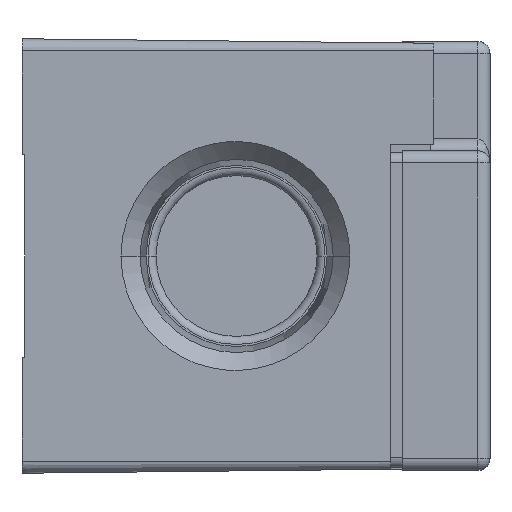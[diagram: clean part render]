
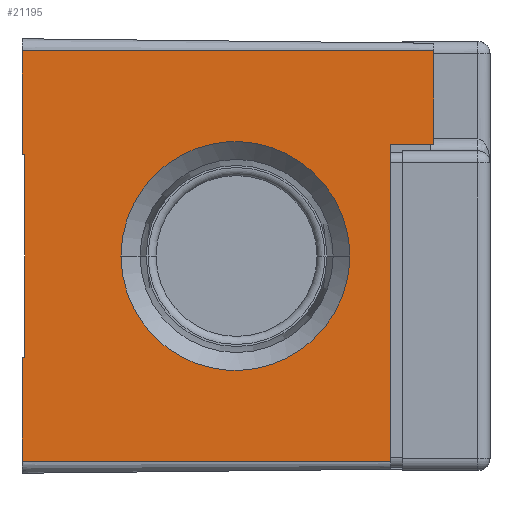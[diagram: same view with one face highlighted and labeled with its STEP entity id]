
A CAD part, front view. The second image highlights one B-rep face of the part: STEP entity #21195.
In plain terms, the highlighted planar face has unit normal (0.011, -1, 0).
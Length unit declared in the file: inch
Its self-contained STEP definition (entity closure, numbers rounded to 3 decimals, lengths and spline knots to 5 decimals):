
#16778=DIRECTION('',(0.,0.,1.));
#16779=VECTOR('',#16778,0.756);
#16780=CARTESIAN_POINT('',(-0.835,-3.20389,-0.378));
#16781=LINE('',#16780,#16779);
#16804=DIRECTION('',(0.,0.,1.));
#16805=VECTOR('',#16804,0.387);
#16806=CARTESIAN_POINT('',(-0.845,-3.204,-0.765));
#16807=LINE('',#16806,#16805);
#17206=DIRECTION('',(0.,0.,-1.));
#17207=VECTOR('',#17206,1.182);
#17208=CARTESIAN_POINT('',(0.53,-3.18912,0.417));
#17209=LINE('',#17208,#17207);
#17234=DIRECTION('',(-1.,-0.011,0.));
#17235=VECTOR('',#17234,0.16001);
#17236=CARTESIAN_POINT('',(0.69,-3.18739,0.417));
#17237=LINE('',#17236,#17235);
#17242=DIRECTION('',(-1.,-0.011,0.));
#17243=VECTOR('',#17242,0.01);
#17244=CARTESIAN_POINT('',(-0.835,-3.20389,-0.378));
#17245=LINE('',#17244,#17243);
#17246=DIRECTION('',(1.,0.011,0.));
#17247=VECTOR('',#17246,0.01);
#17248=CARTESIAN_POINT('',(-0.845,-3.204,0.378));
#17249=LINE('',#17248,#17247);
#17250=DIRECTION('',(0.,0.,1.));
#17251=VECTOR('',#17250,0.348);
#17252=CARTESIAN_POINT('',(0.69,-3.18739,0.417));
#17253=LINE('',#17252,#17251);
#17254=CARTESIAN_POINT('',(-0.47601,-3.20001,0.));
#17255=CARTESIAN_POINT('',(-0.47601,-3.20001,
0.02512));
#17256=CARTESIAN_POINT('',(-0.47154,-3.19996,
0.07725));
#17257=CARTESIAN_POINT('',(-0.44892,-3.19971,
0.15743));
#17258=CARTESIAN_POINT('',(-0.4092,-3.19928,
0.2347));
#17259=CARTESIAN_POINT('',(-0.3533,-3.19868,
0.30367));
#17260=CARTESIAN_POINT('',(-0.28432,-3.19793,
0.35957));
#17261=CARTESIAN_POINT('',(-0.21993,-3.19724,
0.39266));
#17262=CARTESIAN_POINT('',(-0.16696,-3.19666,
0.4106));
#17263=CARTESIAN_POINT('',(-0.12712,-3.19623,
0.41991));
#17264=CARTESIAN_POINT('',(-0.09433,-3.19588,
0.42437));
#17265=CARTESIAN_POINT('',(-0.06856,-3.1956,
0.42609));
#17266=CARTESIAN_POINT('',(-0.04961,-3.19539,
0.42651));
#17267=CARTESIAN_POINT('',(-0.03067,-3.19519,
0.42609));
#17268=CARTESIAN_POINT('',(-0.00489,-3.19491,
0.42437));
#17269=CARTESIAN_POINT('',(0.02789,-3.19455,
0.41991));
#17270=CARTESIAN_POINT('',(0.06773,-3.19412,
0.4106));
#17271=CARTESIAN_POINT('',(0.1207,-3.19355,
0.39266));
#17272=CARTESIAN_POINT('',(0.18509,-3.19285,
0.35957));
#17273=CARTESIAN_POINT('',(0.25407,-3.19211,
0.30367));
#17274=CARTESIAN_POINT('',(0.30997,-3.1915,
0.2347));
#17275=CARTESIAN_POINT('',(0.34969,-3.19107,
0.15743));
#17276=CARTESIAN_POINT('',(0.37232,-3.19083,
0.07725));
#17277=CARTESIAN_POINT('',(0.37678,-3.19078,
0.02512));
#17278=CARTESIAN_POINT('',(0.37678,-3.19078,0.));
#18921=DIRECTION('',(1.,0.011,0.));
#18922=VECTOR('',#18921,1.53509);
#18923=CARTESIAN_POINT('',(-0.845,-3.204,0.765));
#18924=LINE('',#18923,#18922);
#18925=DIRECTION('',(0.,0.,1.));
#18926=VECTOR('',#18925,0.387);
#18927=CARTESIAN_POINT('',(-0.845,-3.204,0.378));
#18928=LINE('',#18927,#18926);
#19285=DIRECTION('',(-1.,-0.011,0.));
#19286=VECTOR('',#19285,1.37508);
#19287=CARTESIAN_POINT('',(0.53,-3.18912,-0.765));
#19288=LINE('',#19287,#19286);
#19293=CARTESIAN_POINT('',(-0.47601,-3.20001,0.));
#19294=CARTESIAN_POINT('',(-0.47601,-3.20001,
-0.02512));
#19295=CARTESIAN_POINT('',(-0.47154,-3.19996,
-0.07725));
#19296=CARTESIAN_POINT('',(-0.44892,-3.19971,
-0.15743));
#19297=CARTESIAN_POINT('',(-0.4092,-3.19928,
-0.2347));
#19298=CARTESIAN_POINT('',(-0.3533,-3.19868,
-0.30367));
#19299=CARTESIAN_POINT('',(-0.28432,-3.19793,
-0.35957));
#19300=CARTESIAN_POINT('',(-0.21993,-3.19724,
-0.39266));
#19301=CARTESIAN_POINT('',(-0.16696,-3.19666,
-0.4106));
#19302=CARTESIAN_POINT('',(-0.12712,-3.19623,
-0.41991));
#19303=CARTESIAN_POINT('',(-0.09433,-3.19588,
-0.42437));
#19304=CARTESIAN_POINT('',(-0.06856,-3.1956,
-0.42609));
#19305=CARTESIAN_POINT('',(-0.04961,-3.19539,
-0.42651));
#19306=CARTESIAN_POINT('',(-0.03067,-3.19519,
-0.42609));
#19307=CARTESIAN_POINT('',(-0.00489,-3.19491,
-0.42437));
#19308=CARTESIAN_POINT('',(0.02789,-3.19455,
-0.41991));
#19309=CARTESIAN_POINT('',(0.06773,-3.19412,
-0.4106));
#19310=CARTESIAN_POINT('',(0.1207,-3.19355,
-0.39266));
#19311=CARTESIAN_POINT('',(0.18509,-3.19285,
-0.35957));
#19312=CARTESIAN_POINT('',(0.25407,-3.19211,
-0.30367));
#19313=CARTESIAN_POINT('',(0.30997,-3.1915,
-0.2347));
#19314=CARTESIAN_POINT('',(0.34969,-3.19107,
-0.15743));
#19315=CARTESIAN_POINT('',(0.37232,-3.19083,
-0.07725));
#19316=CARTESIAN_POINT('',(0.37678,-3.19078,
-0.02512));
#19317=CARTESIAN_POINT('',(0.37678,-3.19078,0.));
#20309=CARTESIAN_POINT('',(-0.835,-3.20389,-0.378));
#20310=VERTEX_POINT('',#20309);
#20329=CARTESIAN_POINT('',(-0.835,-3.20389,0.378));
#20330=VERTEX_POINT('',#20329);
#20355=CARTESIAN_POINT('',(-0.845,-3.204,-0.378));
#20356=VERTEX_POINT('',#20355);
#20363=CARTESIAN_POINT('',(-0.845,-3.204,-0.765));
#20364=VERTEX_POINT('',#20363);
#20365=CARTESIAN_POINT('',(-0.845,-3.204,0.378));
#20366=CARTESIAN_POINT('',(-0.845,-3.204,0.765));
#20367=VERTEX_POINT('',#20365);
#20368=VERTEX_POINT('',#20366);
#20395=CARTESIAN_POINT('',(0.53,-3.18912,-0.765));
#20396=VERTEX_POINT('',#20395);
#20407=CARTESIAN_POINT('',(-0.47601,-3.20001,0.));
#20409=VERTEX_POINT('',#20407);
#20428=CARTESIAN_POINT('',(0.69,-3.18739,0.765));
#20429=VERTEX_POINT('',#20428);
#20435=VERTEX_POINT('',#17278);
#20442=CARTESIAN_POINT('',(0.53,-3.18912,0.417));
#20443=VERTEX_POINT('',#20442);
#20451=CARTESIAN_POINT('',(0.69,-3.18739,0.417));
#20452=VERTEX_POINT('',#20451);
#21166=CARTESIAN_POINT('',(-0.845,-3.204,-1.81479));
#21167=DIRECTION('',(0.011,-1.,0.));
#21168=DIRECTION('',(0.,0.,1.));
#21169=AXIS2_PLACEMENT_3D('',#21166,#21167,#21168);
#21170=PLANE('',#21169);
#21172=ORIENTED_EDGE('',*,*,#21171,.F.);
#21173=ORIENTED_EDGE('',*,*,#20662,.T.);
#21175=ORIENTED_EDGE('',*,*,#21174,.F.);
#21177=ORIENTED_EDGE('',*,*,#21176,.T.);
#21179=ORIENTED_EDGE('',*,*,#21178,.T.);
#21181=ORIENTED_EDGE('',*,*,#21180,.F.);
#21182=ORIENTED_EDGE('',*,*,#21155,.T.);
#21183=ORIENTED_EDGE('',*,*,#21122,.T.);
#21185=ORIENTED_EDGE('',*,*,#21184,.T.);
#21186=ORIENTED_EDGE('',*,*,#20698,.T.);
#21187=EDGE_LOOP('',(#21172,#21173,#21175,#21177,#21179,#21181,#21182,#21183,
#21185,#21186));
#21188=FACE_OUTER_BOUND('',#21187,.F.);
#21190=ORIENTED_EDGE('',*,*,#21189,.F.);
#21192=ORIENTED_EDGE('',*,*,#21191,.T.);
#21193=EDGE_LOOP('',(#21190,#21192));
#21194=FACE_BOUND('',#21193,.F.);
#21195=ADVANCED_FACE('',(#21188,#21194),#21170,.T.);
#17279=B_SPLINE_CURVE_WITH_KNOTS('',3,(#17254,#17255,#17256,#17257,#17258,
#17259,#17260,#17261,#17262,#17263,#17264,#17265,#17266,#17267,#17268,#17269,
#17270,#17271,#17272,#17273,#17274,#17275,#17276,#17277,#17278),.UNSPECIFIED.,
.F.,.F.,(4,1,1,1,1,1,1,1,1,1,1,1,1,1,1,1,1,1,1,1,1,1,4),(0.,0.0625,0.125,
0.1875,0.25,0.3125,0.375,0.40625,0.4375,0.46875,0.48438,0.5,
0.51563,0.53125,0.5625,0.59375,0.625,0.6875,0.75,0.8125,
0.875,0.9375,1.),.UNSPECIFIED.);
#19318=B_SPLINE_CURVE_WITH_KNOTS('',3,(#19293,#19294,#19295,#19296,#19297,
#19298,#19299,#19300,#19301,#19302,#19303,#19304,#19305,#19306,#19307,#19308,
#19309,#19310,#19311,#19312,#19313,#19314,#19315,#19316,#19317),.UNSPECIFIED.,
.F.,.F.,(4,1,1,1,1,1,1,1,1,1,1,1,1,1,1,1,1,1,1,1,1,1,4),(0.,0.0625,0.125,
0.1875,0.25,0.3125,0.375,0.40625,0.4375,0.46875,0.48438,0.5,
0.51563,0.53125,0.5625,0.59375,0.625,0.6875,0.75,0.8125,
0.875,0.9375,1.),.UNSPECIFIED.);
#20662=EDGE_CURVE('',#20310,#20330,#16781,.T.);
#20698=EDGE_CURVE('',#20364,#20356,#16807,.T.);
#21122=EDGE_CURVE('',#20443,#20396,#17209,.T.);
#21155=EDGE_CURVE('',#20452,#20443,#17237,.T.);
#21171=EDGE_CURVE('',#20310,#20356,#17245,.T.);
#21174=EDGE_CURVE('',#20367,#20330,#17249,.T.);
#21176=EDGE_CURVE('',#20367,#20368,#18928,.T.);
#21178=EDGE_CURVE('',#20368,#20429,#18924,.T.);
#21180=EDGE_CURVE('',#20452,#20429,#17253,.T.);
#21184=EDGE_CURVE('',#20396,#20364,#19288,.T.);
#21189=EDGE_CURVE('',#20409,#20435,#17279,.T.);
#21191=EDGE_CURVE('',#20409,#20435,#19318,.T.);
